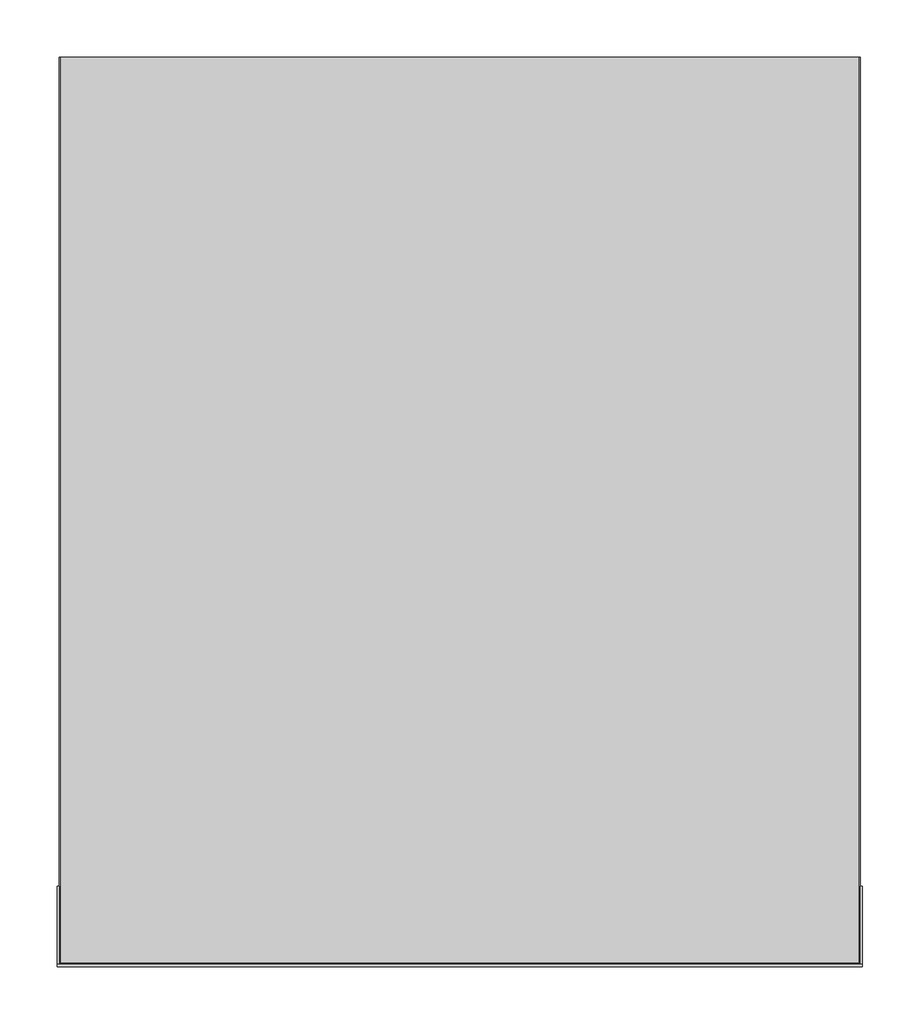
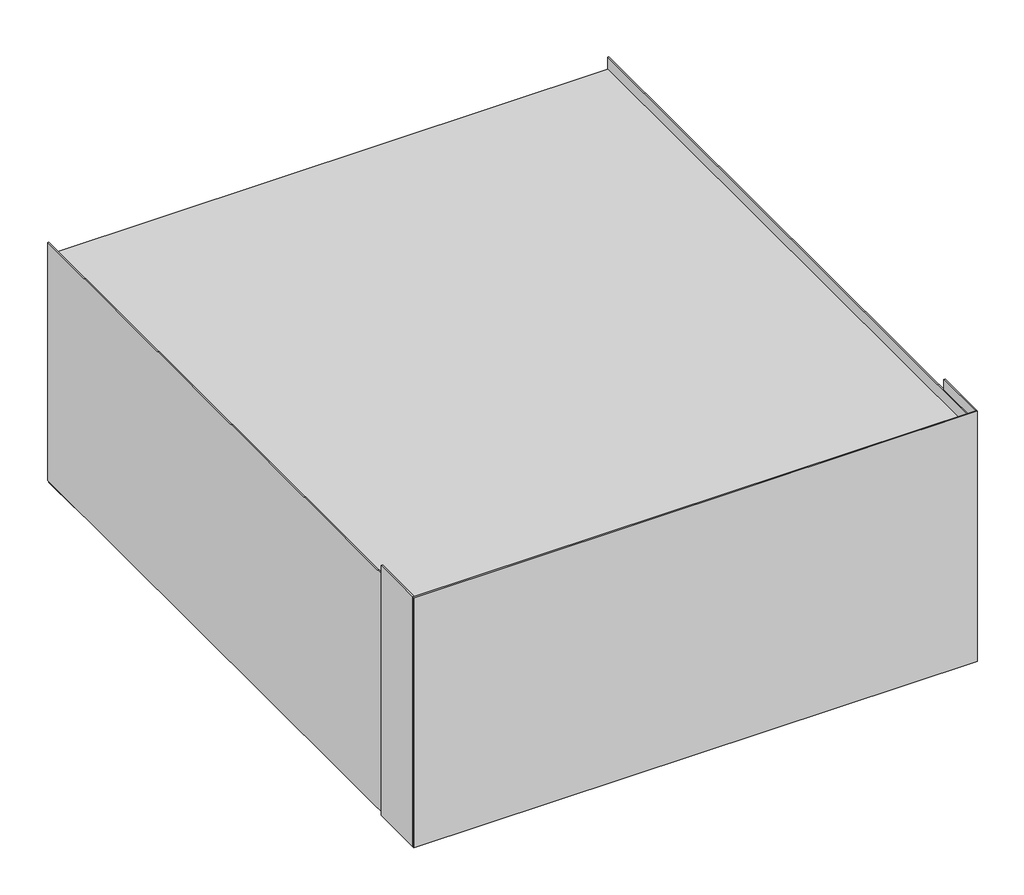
# Not in any storey: 1 proxy.
"""IFC4 building model written with IfcOpenShell, lengths in millimetres."""

from ifc_helpers import new_model, si_unit, origin, place, context, project, spatial, transform, mapped, element, save
from components import specialty_equipment_86b45287

model = new_model("IFC4")

# Units and contexts
model_context = context("Model", 3, world=origin())
ifc_project = project(units=[si_unit("LENGTHUNIT", "METRE", prefix="MILLI")], contexts=[model_context])

# Site, building
site = spatial("IfcSite", under=ifc_project)
building = spatial("IfcBuilding", under=site)

# Proxy
placement = place(None, origin())
specialty_equipment_shape = specialty_equipment_86b45287(model_context)
element("IfcBuildingElementProxy", 1, Name="11792110_EU_APWM037_IG : 59510037_EU_11792110_APWM037_IG", ObjectType="11792110_EU_APWM037_IG : 59510037_EU_11792110_APWM037_IG", at=placement, inside=building, context=model_context, shape_type="MappedRepresentation", body=[
    mapped(specialty_equipment_shape, transform((0.0, 0.0, 0.0), x_axis=(1.0, 0.0, 0.0), y_axis=(0.0, 1.0, 0.0), z_axis=(0.0, 0.0, 1.0))),
])

save(model, "model.ifc")
